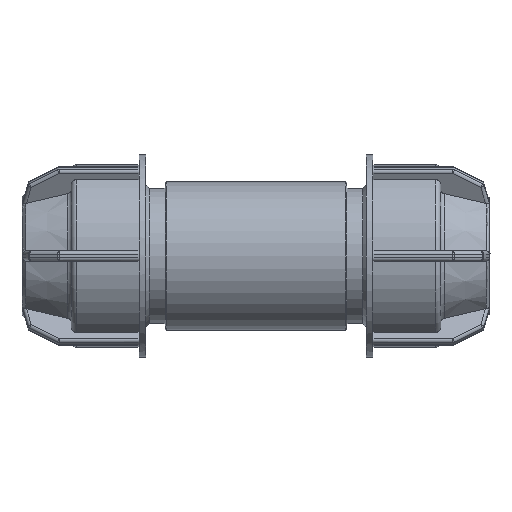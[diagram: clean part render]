
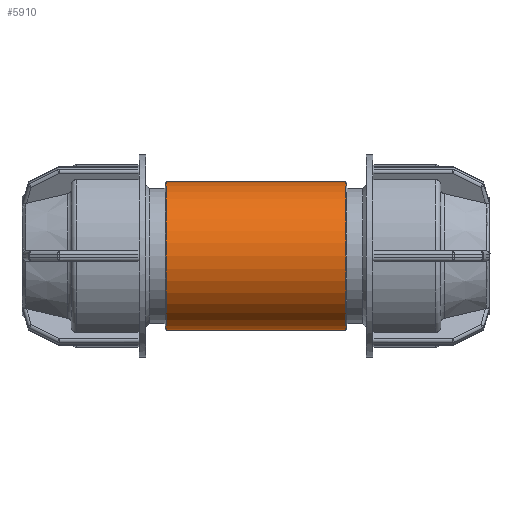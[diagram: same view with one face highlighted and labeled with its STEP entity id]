
A CAD part, front view. The second image highlights one B-rep face of the part: STEP entity #5910.
In plain terms, the highlighted cylindrical face has radius 14.3 mm (diameter 28.6 mm), a full revolution.
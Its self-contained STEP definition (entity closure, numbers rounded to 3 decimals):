
#837=B_SPLINE_CURVE_WITH_KNOTS('',3,(#8988,#8989,#8990,#8991,#8992,#8993,
#8994,#8995,#8996,#8997,#8998,#8999,#9000,#9001,#9002,#9003,#9004,#9005,
#9006,#9007,#9008,#9009,#9010,#9011,#9012,#9013,#9014,#9015,#9016,#9017,
#9018,#9019,#9020,#9021),.UNSPECIFIED.,.T.,.F.,(4,2,2,2,2,2,2,2,2,2,2,2,
2,2,2,2,4),(0.,0.326,0.652,0.977,1.301,
1.625,1.95,2.276,2.602,2.928,
3.254,3.579,3.903,4.227,4.552,
4.878,5.204),.UNSPECIFIED.);
#1019=CYLINDRICAL_SURFACE('',#6329,14.3);
#1339=FACE_BOUND('',#1800,.T.);
#1340=FACE_BOUND('',#1801,.T.);
#1383=FACE_OUTER_BOUND('',#1799,.T.);
#1799=EDGE_LOOP('',(#4064));
#1800=EDGE_LOOP('',(#4065));
#1801=EDGE_LOOP('',(#4066));
#2254=CIRCLE('',#6326,14.3);
#2256=CIRCLE('',#6330,14.3);
#2603=VERTEX_POINT('',#8979);
#2605=VERTEX_POINT('',#8985);
#2606=VERTEX_POINT('',#8987);
#3146=EDGE_CURVE('',#2603,#2603,#2254,.T.);
#3148=EDGE_CURVE('',#2605,#2605,#2256,.T.);
#3149=EDGE_CURVE('',#2606,#2606,#837,.T.);
#4064=ORIENTED_EDGE('',*,*,#3148,.F.);
#4065=ORIENTED_EDGE('',*,*,#3149,.F.);
#4066=ORIENTED_EDGE('',*,*,#3146,.F.);
#5910=ADVANCED_FACE('',(#1383,#1339,#1340),#1019,.T.);
#6326=AXIS2_PLACEMENT_3D('',#8980,#7093,#7094);
#6329=AXIS2_PLACEMENT_3D('',#8984,#7099,#7100);
#6330=AXIS2_PLACEMENT_3D('',#8986,#7101,#7102);
#7093=DIRECTION('center_axis',(-1.,0.,0.));
#7094=DIRECTION('ref_axis',(0.,-1.,0.));
#7099=DIRECTION('center_axis',(1.,0.,0.));
#7100=DIRECTION('ref_axis',(0.,1.,0.));
#7101=DIRECTION('center_axis',(1.,0.,0.));
#7102=DIRECTION('ref_axis',(0.,-1.,0.));
#8979=CARTESIAN_POINT('',(-17.3,14.3,0.));
#8980=CARTESIAN_POINT('Origin',(-17.3,0.,0.));
#8984=CARTESIAN_POINT('Origin',(8.75,0.,0.));
#8985=CARTESIAN_POINT('',(17.3,14.3,0.));
#8986=CARTESIAN_POINT('Origin',(17.3,0.,0.));
#8987=CARTESIAN_POINT('',(0.,11.584,-8.384));
#8988=CARTESIAN_POINT('Ctrl Pts',(0.,11.584,
8.384));
#8989=CARTESIAN_POINT('Ctrl Pts',(1.087,11.584,8.384));
#8990=CARTESIAN_POINT('Ctrl Pts',(2.22,11.754,8.161));
#8991=CARTESIAN_POINT('Ctrl Pts',(4.273,12.308,7.299));
#8992=CARTESIAN_POINT('Ctrl Pts',(5.197,12.68,6.66));
#8993=CARTESIAN_POINT('Ctrl Pts',(6.656,13.345,5.201));
#8994=CARTESIAN_POINT('Ctrl Pts',(7.298,13.687,4.276));
#8995=CARTESIAN_POINT('Ctrl Pts',(8.162,14.167,2.217));
#8996=CARTESIAN_POINT('Ctrl Pts',(8.384,14.3,1.081));
#8997=CARTESIAN_POINT('Ctrl Pts',(8.384,14.3,-1.081));
#8998=CARTESIAN_POINT('Ctrl Pts',(8.162,14.167,-2.217));
#8999=CARTESIAN_POINT('Ctrl Pts',(7.298,13.687,-4.276));
#9000=CARTESIAN_POINT('Ctrl Pts',(6.656,13.345,-5.201));
#9001=CARTESIAN_POINT('Ctrl Pts',(5.197,12.68,-6.66));
#9002=CARTESIAN_POINT('Ctrl Pts',(4.273,12.308,-7.299));
#9003=CARTESIAN_POINT('Ctrl Pts',(2.22,11.754,-8.161));
#9004=CARTESIAN_POINT('Ctrl Pts',(1.087,11.584,-8.384));
#9005=CARTESIAN_POINT('Ctrl Pts',(-1.087,11.584,-8.384));
#9006=CARTESIAN_POINT('Ctrl Pts',(-2.22,11.754,-8.161));
#9007=CARTESIAN_POINT('Ctrl Pts',(-4.273,12.308,-7.299));
#9008=CARTESIAN_POINT('Ctrl Pts',(-5.197,12.68,-6.66));
#9009=CARTESIAN_POINT('Ctrl Pts',(-6.656,13.345,-5.201));
#9010=CARTESIAN_POINT('Ctrl Pts',(-7.298,13.687,-4.276));
#9011=CARTESIAN_POINT('Ctrl Pts',(-8.162,14.167,-2.217));
#9012=CARTESIAN_POINT('Ctrl Pts',(-8.384,14.3,-1.081));
#9013=CARTESIAN_POINT('Ctrl Pts',(-8.384,14.3,1.081));
#9014=CARTESIAN_POINT('Ctrl Pts',(-8.162,14.167,2.217));
#9015=CARTESIAN_POINT('Ctrl Pts',(-7.298,13.687,4.276));
#9016=CARTESIAN_POINT('Ctrl Pts',(-6.656,13.345,5.201));
#9017=CARTESIAN_POINT('Ctrl Pts',(-5.197,12.68,6.66));
#9018=CARTESIAN_POINT('Ctrl Pts',(-4.273,12.308,7.299));
#9019=CARTESIAN_POINT('Ctrl Pts',(-2.22,11.754,8.161));
#9020=CARTESIAN_POINT('Ctrl Pts',(-1.087,11.584,8.384));
#9021=CARTESIAN_POINT('Ctrl Pts',(0.,11.584,
8.384));
